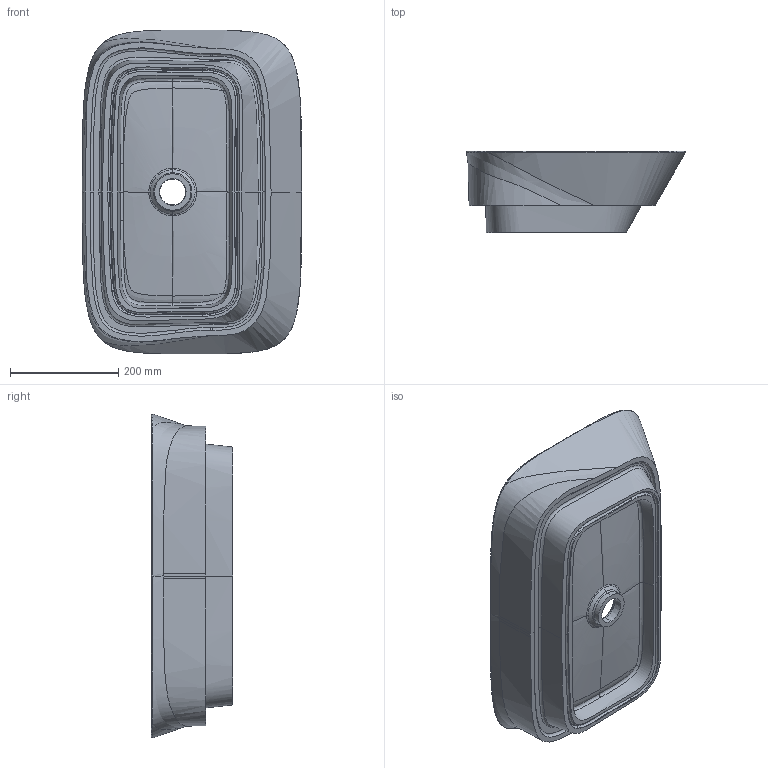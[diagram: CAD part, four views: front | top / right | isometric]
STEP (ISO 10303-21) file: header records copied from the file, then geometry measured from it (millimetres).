
FILE_DESCRIPTION (( 'STEP AP203' ), '1' );
FILE_NAME ('PRU60_IN.STEP', '2017-12-11T10:52:13', ( '' ), ( '' ), 'SwSTEP 2.0', 'SolidWorks 2018', '' );
FILE_SCHEMA (( 'CONFIG_CONTROL_DESIGN' ));
Length unit declared in the file: millimetre
Products named in the file (1): PRU60_IN
Bounding box: 405.54 x 150 x 598.79 mm (x, y, z)
Volume: 6335656.7 mm3; surface area: 771128.1 mm2
Topology: 1 solids, 1 shells, 113 faces, 271 edges, 165 vertices
Faces by surface type: bspline 88, torus 10, plane 7, cone 6, cylinder 2
Entity records: 34770 total; most frequent: CARTESIAN_POINT 32695, ORIENTED_EDGE 542, EDGE_CURVE 271, DIRECTION 215, B_SPLINE_CURVE_WITH_KNOTS 179, VERTEX_POINT 165, EDGE_LOOP 120, ADVANCED_FACE 113
